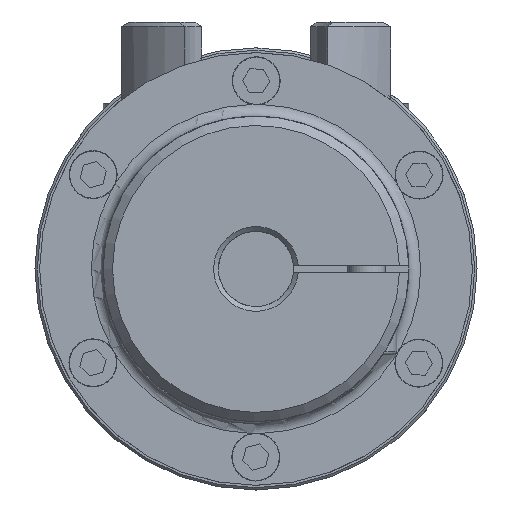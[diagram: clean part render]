
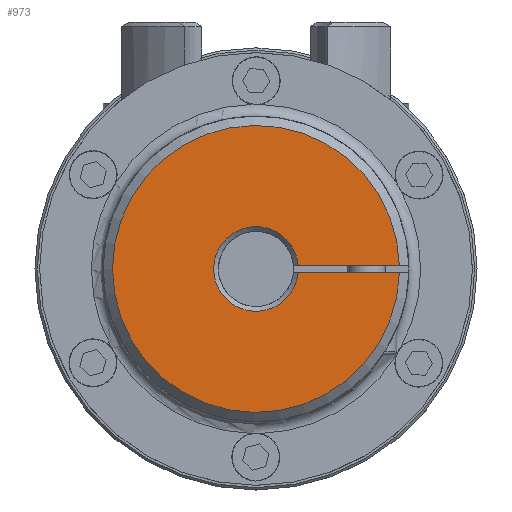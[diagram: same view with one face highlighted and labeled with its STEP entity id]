
A CAD part, left-side view. The second image highlights one B-rep face of the part: STEP entity #973.
In plain terms, the highlighted planar face has unit normal (-1, 0, 0) as drawn and (0, 0, -1) by its records, which use the part's own axes.
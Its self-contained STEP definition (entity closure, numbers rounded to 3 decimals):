
#973 = ADVANCED_FACE( '', ( #2119 ), #2120, .T. );
#2119 = FACE_OUTER_BOUND( '', #3250, .T. );
#2120 = PLANE( '', #3251 );
#3250 = EDGE_LOOP( '', ( #6014, #6015, #6016, #6017 ) );
#3251 = AXIS2_PLACEMENT_3D( '', #6018, #6019, #6020 );
#6014 = ORIENTED_EDGE( '', *, *, #7101, .F. );
#6015 = ORIENTED_EDGE( '', *, *, #7103, .T. );
#6016 = ORIENTED_EDGE( '', *, *, #7090, .T. );
#6017 = ORIENTED_EDGE( '', *, *, #7038, .T. );
#6018 = CARTESIAN_POINT( '', ( 0., 0., 0. ) );
#6019 = DIRECTION( '', ( 0., 0., -1. ) );
#6020 = DIRECTION( '', ( 0., -1., 0. ) );
#7038 = EDGE_CURVE( '', #8393, #8397, #8399, .F. );
#7090 = EDGE_CURVE( '', #8481, #8393, #8482, .F. );
#7101 = EDGE_CURVE( '', #8495, #8397, #8497, .T. );
#7103 = EDGE_CURVE( '', #8495, #8481, #8499, .T. );
#8393 = VERTEX_POINT( '', #10863 );
#8397 = VERTEX_POINT( '', #10870 );
#8399 = CIRCLE( '', #10875, 9. );
#8481 = VERTEX_POINT( '', #11027 );
#8482 = LINE( '', #11028, #11029 );
#8495 = VERTEX_POINT( '', #11054 );
#8497 = LINE( '', #11059, #11060 );
#8499 = CIRCLE( '', #11063, 30.5 );
#10863 = CARTESIAN_POINT( '', ( -8.969, -0.75, 0. ) );
#10870 = CARTESIAN_POINT( '', ( -8.969, 0.75, 0. ) );
#10875 = AXIS2_PLACEMENT_3D( '', #12631, #12632, #12633 );
#11027 = CARTESIAN_POINT( '', ( -30.491, -0.75, 0. ) );
#11028 = CARTESIAN_POINT( '', ( 0., -0.75, 0. ) );
#11029 = VECTOR( '', #12736, 1000. );
#11054 = CARTESIAN_POINT( '', ( -30.491, 0.75, 0. ) );
#11059 = CARTESIAN_POINT( '', ( -32.5, 0.75, 0. ) );
#11060 = VECTOR( '', #12749, 1000. );
#11063 = AXIS2_PLACEMENT_3D( '', #12751, #12752, #12753 );
#12631 = CARTESIAN_POINT( '', ( 0., 0., 0. ) );
#12632 = DIRECTION( '', ( 0., 0., -1. ) );
#12633 = DIRECTION( '', ( -1., 0., 0. ) );
#12736 = DIRECTION( '', ( -1., 0., 0. ) );
#12749 = DIRECTION( '', ( 1., 0., 0. ) );
#12751 = CARTESIAN_POINT( '', ( 0., 0., 0. ) );
#12752 = DIRECTION( '', ( 0., 0., -1. ) );
#12753 = DIRECTION( '', ( -1., 0., 0. ) );
